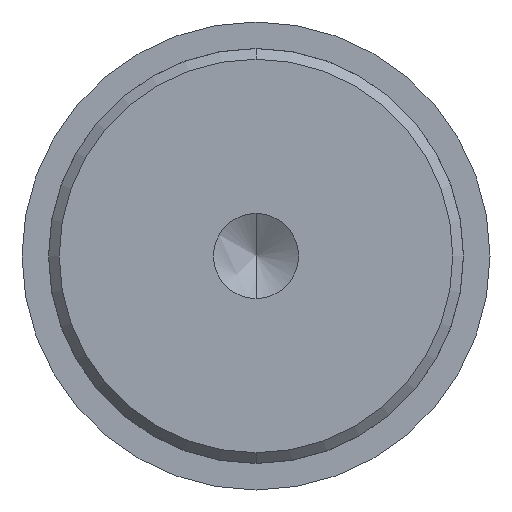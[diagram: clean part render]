
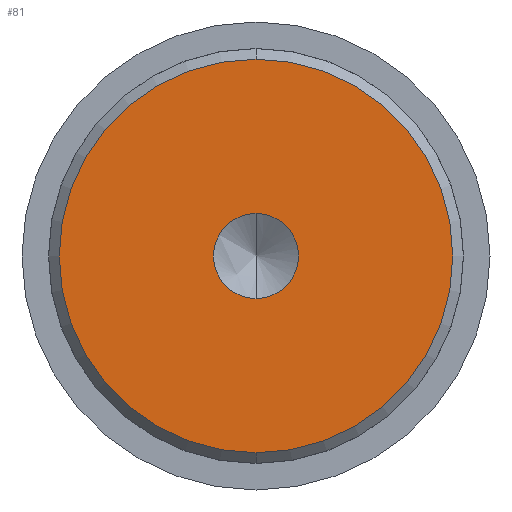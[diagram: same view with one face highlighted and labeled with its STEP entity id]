
A CAD part, left-side view. The second image highlights one B-rep face of the part: STEP entity #81.
In plain terms, the highlighted free-form (B-spline) face has degree [1, 1] with [2, 2] control points.
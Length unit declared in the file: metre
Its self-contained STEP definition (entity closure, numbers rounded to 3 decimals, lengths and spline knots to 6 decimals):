
#81 = ADVANCED_FACE( '', ( #116, #117 ), #118, .T. );
#116 = FACE_BOUND( '', #186, .T. );
#117 = FACE_OUTER_BOUND( '', #187, .T. );
#118 = B_SPLINE_SURFACE_WITH_KNOTS( '', 1, 1, ( ( #188, #189 ), ( #190, #191 ) ), .UNSPECIFIED., .F., .F., .F., ( 2, 2 ), ( 2, 2 ), ( 0., 1. ), ( 0., 1. ), .UNSPECIFIED. );
#186 = EDGE_LOOP( '', ( #345, #346 ) );
#187 = EDGE_LOOP( '', ( #347, #348 ) );
#188 = CARTESIAN_POINT( '', ( -0.044, -0.018722, -0.018722 ) );
#189 = CARTESIAN_POINT( '', ( -0.044, 0.018722, -0.018722 ) );
#190 = CARTESIAN_POINT( '', ( -0.044, -0.018722, 0.018722 ) );
#191 = CARTESIAN_POINT( '', ( -0.044, 0.018722, 0.018722 ) );
#345 = ORIENTED_EDGE( '', *, *, #522, .T. );
#346 = ORIENTED_EDGE( '', *, *, #520, .T. );
#347 = ORIENTED_EDGE( '', *, *, #523, .T. );
#348 = ORIENTED_EDGE( '', *, *, #524, .T. );
#520 = EDGE_CURVE( '', #582, #580, #583, .T. );
#522 = EDGE_CURVE( '', #580, #582, #585, .T. );
#523 = EDGE_CURVE( '', #586, #587, #588, .F. );
#524 = EDGE_CURVE( '', #587, #586, #589, .F. );
#580 = VERTEX_POINT( '', #673 );
#582 = VERTEX_POINT( '', #676 );
#583 = CIRCLE( '', #677, 0.004 );
#585 = CIRCLE( '', #680, 0.004 );
#586 = VERTEX_POINT( '', #681 );
#587 = VERTEX_POINT( '', #682 );
#588 = CIRCLE( '', #683, 0.0185 );
#589 = CIRCLE( '', #684, 0.0185 );
#673 = CARTESIAN_POINT( '', ( -0.044, 0., -0.004 ) );
#676 = CARTESIAN_POINT( '', ( -0.044, 0., 0.004 ) );
#677 = AXIS2_PLACEMENT_3D( '', #806, #807, #808 );
#680 = AXIS2_PLACEMENT_3D( '', #810, #811, #812 );
#681 = CARTESIAN_POINT( '', ( -0.044, 0., 0.0185 ) );
#682 = CARTESIAN_POINT( '', ( -0.044, 0., -0.0185 ) );
#683 = AXIS2_PLACEMENT_3D( '', #813, #814, #815 );
#684 = AXIS2_PLACEMENT_3D( '', #816, #817, #818 );
#806 = CARTESIAN_POINT( '', ( -0.044, 0., 0. ) );
#807 = DIRECTION( '', ( 1., 0., 0. ) );
#808 = DIRECTION( '', ( 0., 0., -1. ) );
#810 = CARTESIAN_POINT( '', ( -0.044, 0., 0. ) );
#811 = DIRECTION( '', ( 1., 0., 0. ) );
#812 = DIRECTION( '', ( 0., 0., -1. ) );
#813 = CARTESIAN_POINT( '', ( -0.044, 0., 0. ) );
#814 = DIRECTION( '', ( 1., 0., 0. ) );
#815 = DIRECTION( '', ( 0., 0., -1. ) );
#816 = CARTESIAN_POINT( '', ( -0.044, 0., 0. ) );
#817 = DIRECTION( '', ( 1., 0., 0. ) );
#818 = DIRECTION( '', ( 0., 0., -1. ) );
